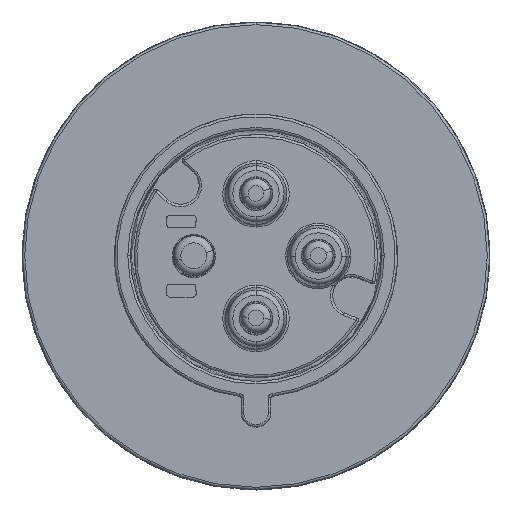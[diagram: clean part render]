
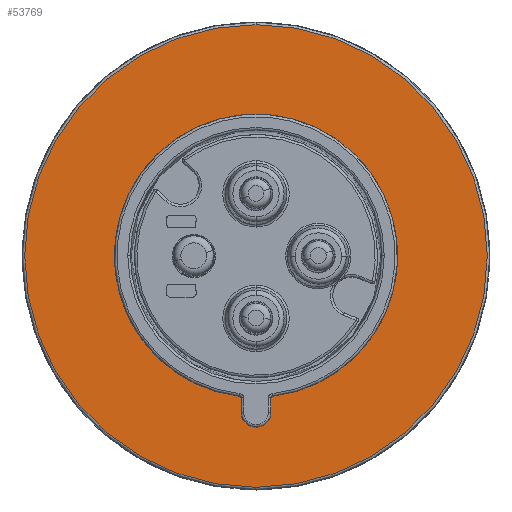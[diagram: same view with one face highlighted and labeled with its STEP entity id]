
A CAD part, top view. The second image highlights one B-rep face of the part: STEP entity #53769.
In plain terms, the highlighted planar face has unit normal (0, 0, 1).
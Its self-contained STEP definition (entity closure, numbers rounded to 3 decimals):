
#11014=CARTESIAN_POINT('',(0.,0.,-31.8));
#11015=DIRECTION('',(0.,0.,1.));
#11016=DIRECTION('',(0.,-1.,0.));
#11017=AXIS2_PLACEMENT_3D('',#11014,#11015,#11016);
#11029=CARTESIAN_POINT('',(0.,0.,-31.8));
#11030=DIRECTION('',(0.,0.,1.));
#11031=DIRECTION('',(0.,1.,0.));
#11032=AXIS2_PLACEMENT_3D('',#11029,#11030,#11031);
#12572=CARTESIAN_POINT('',(0.,0.,-31.8));
#12573=DIRECTION('',(0.,0.,-1.));
#12574=DIRECTION('',(-1.,0.,0.));
#12575=AXIS2_PLACEMENT_3D('',#12572,#12573,#12574);
#12577=CARTESIAN_POINT('',(0.,0.,-31.8));
#12578=DIRECTION('',(0.,0.,-1.));
#12579=DIRECTION('',(1.,0.,0.));
#12580=AXIS2_PLACEMENT_3D('',#12577,#12578,#12579);
#12601=CARTESIAN_POINT('',(0.,0.,-31.8));
#12602=DIRECTION('',(0.,0.,-1.));
#12603=DIRECTION('',(0.042,-0.999,0.));
#12604=AXIS2_PLACEMENT_3D('',#12601,#12602,#12603);
#12625=CARTESIAN_POINT('',(0.,0.,-31.8));
#12626=DIRECTION('',(0.,0.,-1.));
#12627=DIRECTION('',(-0.114,-0.993,0.));
#12628=AXIS2_PLACEMENT_3D('',#12625,#12626,#12627);
#12638=DIRECTION('',(0.,-1.,0.));
#12639=VECTOR('',#12638,0.301);
#12640=CARTESIAN_POINT('',(2.082,-27.346,-31.8));
#12641=LINE('4080',#12640,#12639);
#12651=CARTESIAN_POINT('',(0.,0.,-31.8));
#12652=DIRECTION('',(0.,0.,-1.));
#12653=DIRECTION('',(0.075,-0.997,0.));
#12654=AXIS2_PLACEMENT_3D('',#12651,#12652,#12653);
#12656=DIRECTION('',(0.,-1.,0.));
#12657=VECTOR('',#12656,0.3);
#12658=CARTESIAN_POINT('',(1.148,-27.401,-31.8));
#12659=LINE('4079',#12658,#12657);
#12686=DIRECTION('',(0.,-1.,0.));
#12687=VECTOR('',#12686,0.301);
#12688=CARTESIAN_POINT('',(-2.198,-27.337,-31.8));
#12689=LINE('4078',#12688,#12687);
#12699=CARTESIAN_POINT('',(0.,0.,-31.8));
#12700=DIRECTION('',(0.,0.,-1.));
#12701=DIRECTION('',(-0.079,-0.997,0.));
#12702=AXIS2_PLACEMENT_3D('',#12699,#12700,#12701);
#12704=DIRECTION('',(0.,-1.,0.));
#12705=VECTOR('',#12704,0.302);
#12706=CARTESIAN_POINT('',(-3.132,-27.246,-31.8));
#12707=LINE('4077',#12706,#12705);
#24445=CARTESIAN_POINT('',(0.,46.456,-31.8));
#24446=CARTESIAN_POINT('',(0.,-46.456,-31.8));
#24447=VERTEX_POINT('',#24445);
#24448=VERTEX_POINT('',#24446);
#24690=CARTESIAN_POINT('',(-27.425,0.,-31.8));
#24691=CARTESIAN_POINT('',(27.425,0.,-31.8));
#24692=VERTEX_POINT('',#24690);
#24693=VERTEX_POINT('',#24691);
#24694=CARTESIAN_POINT('',(2.082,-27.346,-31.8));
#24695=VERTEX_POINT('',#24694);
#24696=CARTESIAN_POINT('',(1.148,-27.401,-31.8));
#24697=CARTESIAN_POINT('',(-2.198,-27.337,-31.8));
#24698=VERTEX_POINT('',#24696);
#24699=VERTEX_POINT('',#24697);
#24700=CARTESIAN_POINT('',(-3.132,-27.246,-31.8));
#24701=VERTEX_POINT('',#24700);
#24706=CARTESIAN_POINT('',(-3.132,-27.548,-31.8));
#24707=VERTEX_POINT('',#24706);
#24708=CARTESIAN_POINT('',(-2.198,-27.638,-31.8));
#24709=VERTEX_POINT('',#24708);
#24710=CARTESIAN_POINT('',(1.148,-27.701,-31.8));
#24711=VERTEX_POINT('',#24710);
#24712=CARTESIAN_POINT('',(2.082,-27.647,-31.8));
#24713=VERTEX_POINT('',#24712);
#53737=CARTESIAN_POINT('',(0.,0.,-31.8));
#53738=DIRECTION('',(0.,0.,-1.));
#53739=DIRECTION('',(0.,-1.,0.));
#53740=AXIS2_PLACEMENT_3D('',#53737,#53738,#53739);
#53741=PLANE('1016',#53740);
#53743=ORIENTED_EDGE('3736',*,*,#53742,.F.);
#53744=ORIENTED_EDGE('3738',*,*,#53715,.F.);
#53745=EDGE_LOOP('1016',(#53743,#53744));
#53746=FACE_OUTER_BOUND('1016',#53745,.F.);
#53748=ORIENTED_EDGE('4069',*,*,#53747,.F.);
#53750=ORIENTED_EDGE('4073',*,*,#53749,.F.);
#53752=ORIENTED_EDGE('4077',*,*,#53751,.T.);
#53754=ORIENTED_EDGE('4082',*,*,#53753,.F.);
#53756=ORIENTED_EDGE('4078',*,*,#53755,.F.);
#53758=ORIENTED_EDGE('4072',*,*,#53757,.F.);
#53760=ORIENTED_EDGE('4079',*,*,#53759,.T.);
#53762=ORIENTED_EDGE('4081',*,*,#53761,.F.);
#53764=ORIENTED_EDGE('4080',*,*,#53763,.F.);
#53766=ORIENTED_EDGE('4071',*,*,#53765,.F.);
#53767=EDGE_LOOP('1016',(#53748,#53750,#53752,#53754,#53756,#53758,#53760,
#53762,#53764,#53766));
#53768=FACE_BOUND('1016',#53767,.F.);
#11018=CIRCLE('3738',#11017,46.456);
#11033=CIRCLE('3736',#11032,46.456);
#12576=CIRCLE('4069',#12575,27.425);
#12581=CIRCLE('4071',#12580,27.425);
#12605=CIRCLE('4072',#12604,27.425);
#12629=CIRCLE('4073',#12628,27.425);
#12655=CIRCLE('4081',#12654,27.725);
#12703=CIRCLE('4082',#12702,27.725);
#53715=EDGE_CURVE('3738',#24448,#24447,#11018,.T.);
#53742=EDGE_CURVE('3736',#24447,#24448,#11033,.T.);
#53747=EDGE_CURVE('4069',#24692,#24693,#12576,.T.);
#53749=EDGE_CURVE('4073',#24701,#24692,#12629,.T.);
#53751=EDGE_CURVE('4077',#24701,#24707,#12707,.T.);
#53753=EDGE_CURVE('4082',#24709,#24707,#12703,.T.);
#53755=EDGE_CURVE('4078',#24699,#24709,#12689,.T.);
#53757=EDGE_CURVE('4072',#24698,#24699,#12605,.T.);
#53759=EDGE_CURVE('4079',#24698,#24711,#12659,.T.);
#53761=EDGE_CURVE('4081',#24713,#24711,#12655,.T.);
#53763=EDGE_CURVE('4080',#24695,#24713,#12641,.T.);
#53765=EDGE_CURVE('4071',#24693,#24695,#12581,.T.);
#53769=ADVANCED_FACE('1016',(#53746,#53768),#53741,.F.);
